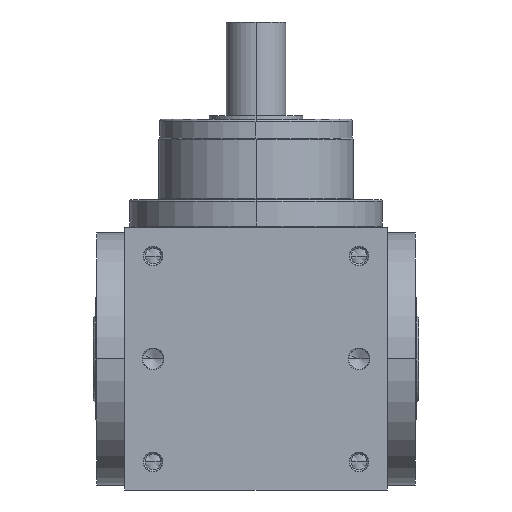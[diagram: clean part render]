
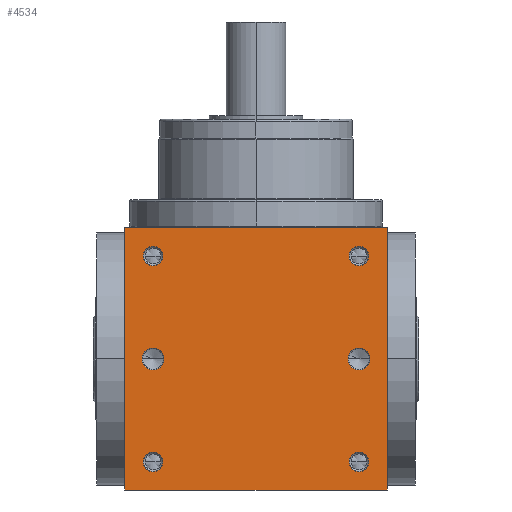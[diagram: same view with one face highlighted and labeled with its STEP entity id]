
A CAD part, front view. The second image highlights one B-rep face of the part: STEP entity #4534.
In plain terms, the highlighted planar face has unit normal (0, -1, 0).
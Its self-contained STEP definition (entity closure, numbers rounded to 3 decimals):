
#5=DIRECTION('',(1.,0.,0.));
#6=VECTOR('',#5,140.);
#7=CARTESIAN_POINT('',(-70.,-70.,-70.));
#8=LINE('',#7,#6);
#155=DIRECTION('',(0.,0.,1.));
#156=VECTOR('',#155,140.);
#157=CARTESIAN_POINT('',(70.,-70.,-70.));
#158=LINE('',#157,#156);
#209=DIRECTION('',(0.,0.,1.));
#210=VECTOR('',#209,140.);
#211=CARTESIAN_POINT('',(-70.,-70.,-70.));
#212=LINE('',#211,#210);
#213=CARTESIAN_POINT('',(55.,-70.,55.));
#214=DIRECTION('',(0.,1.,0.));
#215=DIRECTION('',(-1.,0.,0.));
#216=AXIS2_PLACEMENT_3D('',#213,#214,#215);
#218=CARTESIAN_POINT('',(55.,-70.,55.));
#219=DIRECTION('',(0.,1.,0.));
#220=DIRECTION('',(1.,0.,0.));
#221=AXIS2_PLACEMENT_3D('',#218,#219,#220);
#223=CARTESIAN_POINT('',(-55.,-70.,55.));
#224=DIRECTION('',(0.,1.,0.));
#225=DIRECTION('',(-1.,0.,0.));
#226=AXIS2_PLACEMENT_3D('',#223,#224,#225);
#228=CARTESIAN_POINT('',(-55.,-70.,55.));
#229=DIRECTION('',(0.,1.,0.));
#230=DIRECTION('',(1.,0.,0.));
#231=AXIS2_PLACEMENT_3D('',#228,#229,#230);
#233=CARTESIAN_POINT('',(55.,-70.,-55.));
#234=DIRECTION('',(0.,1.,0.));
#235=DIRECTION('',(-1.,0.,0.));
#236=AXIS2_PLACEMENT_3D('',#233,#234,#235);
#238=CARTESIAN_POINT('',(55.,-70.,-55.));
#239=DIRECTION('',(0.,1.,0.));
#240=DIRECTION('',(1.,0.,0.));
#241=AXIS2_PLACEMENT_3D('',#238,#239,#240);
#243=CARTESIAN_POINT('',(-55.,-70.,-55.));
#244=DIRECTION('',(0.,1.,0.));
#245=DIRECTION('',(-1.,0.,0.));
#246=AXIS2_PLACEMENT_3D('',#243,#244,#245);
#248=CARTESIAN_POINT('',(-55.,-70.,-55.));
#249=DIRECTION('',(0.,1.,0.));
#250=DIRECTION('',(1.,0.,0.));
#251=AXIS2_PLACEMENT_3D('',#248,#249,#250);
#253=CARTESIAN_POINT('',(-55.,-70.,0.));
#254=DIRECTION('',(0.,1.,0.));
#255=DIRECTION('',(1.,0.,0.));
#256=AXIS2_PLACEMENT_3D('',#253,#254,#255);
#258=CARTESIAN_POINT('',(-55.,-70.,0.));
#259=DIRECTION('',(0.,1.,0.));
#260=DIRECTION('',(-1.,0.,0.));
#261=AXIS2_PLACEMENT_3D('',#258,#259,#260);
#263=CARTESIAN_POINT('',(55.,-70.,0.));
#264=DIRECTION('',(0.,1.,0.));
#265=DIRECTION('',(1.,0.,0.));
#266=AXIS2_PLACEMENT_3D('',#263,#264,#265);
#268=CARTESIAN_POINT('',(55.,-70.,0.));
#269=DIRECTION('',(0.,1.,0.));
#270=DIRECTION('',(-1.,0.,0.));
#271=AXIS2_PLACEMENT_3D('',#268,#269,#270);
#285=DIRECTION('',(1.,0.,0.));
#286=VECTOR('',#285,140.);
#287=CARTESIAN_POINT('',(-70.,-70.,70.));
#288=LINE('',#287,#286);
#3652=CARTESIAN_POINT('',(-70.,-70.,-70.));
#3654=VERTEX_POINT('',#3652);
#3655=CARTESIAN_POINT('',(70.,-70.,-70.));
#3656=VERTEX_POINT('',#3655);
#3660=CARTESIAN_POINT('',(-70.,-70.,70.));
#3662=VERTEX_POINT('',#3660);
#3663=CARTESIAN_POINT('',(70.,-70.,70.));
#3664=VERTEX_POINT('',#3663);
#3819=CARTESIAN_POINT('',(49.75,-70.,55.));
#3820=CARTESIAN_POINT('',(60.25,-70.,55.));
#3821=VERTEX_POINT('',#3819);
#3822=VERTEX_POINT('',#3820);
#3827=CARTESIAN_POINT('',(-60.25,-70.,55.));
#3828=CARTESIAN_POINT('',(-49.75,-70.,55.));
#3829=VERTEX_POINT('',#3827);
#3830=VERTEX_POINT('',#3828);
#3835=CARTESIAN_POINT('',(49.75,-70.,-55.));
#3836=CARTESIAN_POINT('',(60.25,-70.,-55.));
#3837=VERTEX_POINT('',#3835);
#3838=VERTEX_POINT('',#3836);
#3843=CARTESIAN_POINT('',(-60.25,-70.,-55.));
#3844=CARTESIAN_POINT('',(-49.75,-70.,-55.));
#3845=VERTEX_POINT('',#3843);
#3846=VERTEX_POINT('',#3844);
#4167=CARTESIAN_POINT('',(-49.15,-70.,
0.));
#4168=CARTESIAN_POINT('',(-60.85,-70.,
0.));
#4169=VERTEX_POINT('',#4167);
#4170=VERTEX_POINT('',#4168);
#4175=CARTESIAN_POINT('',(60.85,-70.,0.));
#4176=CARTESIAN_POINT('',(49.15,-70.,0.));
#4177=VERTEX_POINT('',#4175);
#4178=VERTEX_POINT('',#4176);
#4486=CARTESIAN_POINT('',(-70.,-70.,-70.));
#4487=DIRECTION('',(0.,-1.,0.));
#4488=DIRECTION('',(1.,0.,0.));
#4489=AXIS2_PLACEMENT_3D('',#4486,#4487,#4488);
#4490=PLANE('',#4489);
#4491=ORIENTED_EDGE('',*,*,#4326,.F.);
#4492=ORIENTED_EDGE('',*,*,#4369,.T.);
#4494=ORIENTED_EDGE('',*,*,#4493,.T.);
#4495=ORIENTED_EDGE('',*,*,#4448,.F.);
#4496=EDGE_LOOP('',(#4491,#4492,#4494,#4495));
#4497=FACE_OUTER_BOUND('',#4496,.F.);
#4499=ORIENTED_EDGE('',*,*,#4498,.F.);
#4501=ORIENTED_EDGE('',*,*,#4500,.F.);
#4502=EDGE_LOOP('',(#4499,#4501));
#4503=FACE_BOUND('',#4502,.F.);
#4505=ORIENTED_EDGE('',*,*,#4504,.F.);
#4507=ORIENTED_EDGE('',*,*,#4506,.F.);
#4508=EDGE_LOOP('',(#4505,#4507));
#4509=FACE_BOUND('',#4508,.F.);
#4511=ORIENTED_EDGE('',*,*,#4510,.F.);
#4513=ORIENTED_EDGE('',*,*,#4512,.F.);
#4514=EDGE_LOOP('',(#4511,#4513));
#4515=FACE_BOUND('',#4514,.F.);
#4517=ORIENTED_EDGE('',*,*,#4516,.F.);
#4519=ORIENTED_EDGE('',*,*,#4518,.F.);
#4520=EDGE_LOOP('',(#4517,#4519));
#4521=FACE_BOUND('',#4520,.F.);
#4523=ORIENTED_EDGE('',*,*,#4522,.F.);
#4525=ORIENTED_EDGE('',*,*,#4524,.F.);
#4526=EDGE_LOOP('',(#4523,#4525));
#4527=FACE_BOUND('',#4526,.F.);
#4529=ORIENTED_EDGE('',*,*,#4528,.F.);
#4531=ORIENTED_EDGE('',*,*,#4530,.F.);
#4532=EDGE_LOOP('',(#4529,#4531));
#4533=FACE_BOUND('',#4532,.F.);
#4534=ADVANCED_FACE('',(#4497,#4503,#4509,#4515,#4521,#4527,#4533),#4490,.T.);
#217=CIRCLE('',#216,5.25);
#222=CIRCLE('',#221,5.25);
#227=CIRCLE('',#226,5.25);
#232=CIRCLE('',#231,5.25);
#237=CIRCLE('',#236,5.25);
#242=CIRCLE('',#241,5.25);
#247=CIRCLE('',#246,5.25);
#252=CIRCLE('',#251,5.25);
#257=CIRCLE('',#256,5.85);
#262=CIRCLE('',#261,5.85);
#267=CIRCLE('',#266,5.85);
#272=CIRCLE('',#271,5.85);
#4326=EDGE_CURVE('',#3654,#3656,#8,.T.);
#4369=EDGE_CURVE('',#3654,#3662,#212,.T.);
#4448=EDGE_CURVE('',#3656,#3664,#158,.T.);
#4493=EDGE_CURVE('',#3662,#3664,#288,.T.);
#4498=EDGE_CURVE('',#3821,#3822,#217,.T.);
#4500=EDGE_CURVE('',#3822,#3821,#222,.T.);
#4504=EDGE_CURVE('',#3829,#3830,#227,.T.);
#4506=EDGE_CURVE('',#3830,#3829,#232,.T.);
#4510=EDGE_CURVE('',#3837,#3838,#237,.T.);
#4512=EDGE_CURVE('',#3838,#3837,#242,.T.);
#4516=EDGE_CURVE('',#3845,#3846,#247,.T.);
#4518=EDGE_CURVE('',#3846,#3845,#252,.T.);
#4522=EDGE_CURVE('',#4169,#4170,#257,.T.);
#4524=EDGE_CURVE('',#4170,#4169,#262,.T.);
#4528=EDGE_CURVE('',#4177,#4178,#267,.T.);
#4530=EDGE_CURVE('',#4178,#4177,#272,.T.);
